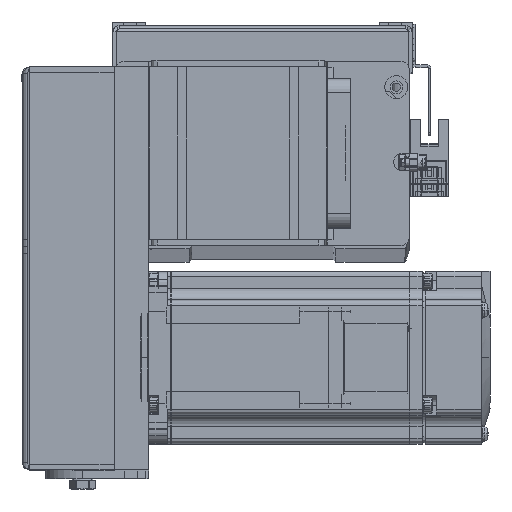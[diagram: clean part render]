
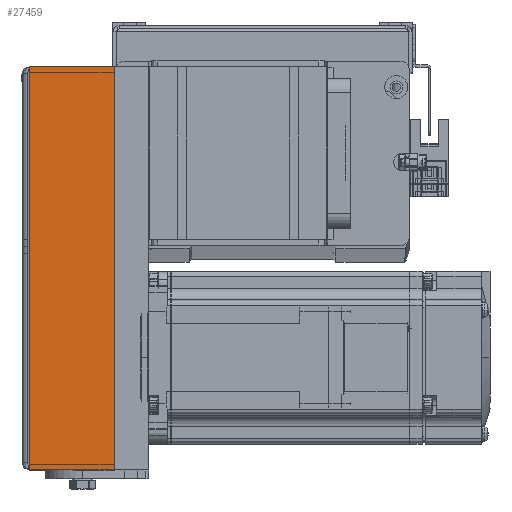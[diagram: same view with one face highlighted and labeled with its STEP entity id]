
A CAD part, top view. The second image highlights one B-rep face of the part: STEP entity #27459.
In plain terms, the highlighted planar face has unit normal (0, 0, 1) as drawn and (0, 0, -1) by its records, which use the part's own axes.
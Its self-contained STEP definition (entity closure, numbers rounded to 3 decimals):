
#3657 = EDGE_CURVE ( 'NONE', #28939, #40712, #26508, .T. ) ;
#4448 = VERTEX_POINT ( 'NONE', #38315 ) ;
#6220 = DIRECTION ( 'NONE',  ( 0., 0., 1. ) ) ;
#7777 = VECTOR ( 'NONE', #45006, 1000. ) ;
#8669 = AXIS2_PLACEMENT_3D ( 'NONE', #18691, #6220, #52227 ) ;
#9411 = ORIENTED_EDGE ( 'NONE', *, *, #3657, .F. ) ;
#11504 = CARTESIAN_POINT ( 'NONE',  ( 70., 0., -31. ) ) ;
#11749 = LINE ( 'NONE', #28498, #7777 ) ;
#13068 = DIRECTION ( 'NONE',  ( 0., 1., 0. ) ) ;
#13646 = ORIENTED_EDGE ( 'NONE', *, *, #20446, .T. ) ;
#15111 = CARTESIAN_POINT ( 'NONE',  ( 70., -29.5, -31. ) ) ;
#15734 = LINE ( 'NONE', #36828, #38042 ) ;
#16682 = LINE ( 'NONE', #45619, #49189 ) ;
#18691 = CARTESIAN_POINT ( 'NONE',  ( 0., -30., -31. ) ) ;
#20446 = EDGE_CURVE ( 'NONE', #4448, #40712, #15734, .T. ) ;
#22723 = EDGE_LOOP ( 'NONE', ( #40340, #46550, #13646, #9411 ) ) ;
#26508 = LINE ( 'NONE', #38708, #33072 ) ;
#26732 = EDGE_CURVE ( 'NONE', #36639, #28939, #11749, .T. ) ;
#27459 = ADVANCED_FACE ( 'NONE', ( #51432 ), #39244, .F. ) ;
#28498 = CARTESIAN_POINT ( 'NONE',  ( 70., -29.5, -31. ) ) ;
#28939 = VERTEX_POINT ( 'NONE', #15111 ) ;
#33072 = VECTOR ( 'NONE', #13068, 1000. ) ;
#33625 = CARTESIAN_POINT ( 'NONE',  ( -70., -29.5, -31. ) ) ;
#36300 = EDGE_CURVE ( 'NONE', #36639, #4448, #16682, .T. ) ;
#36639 = VERTEX_POINT ( 'NONE', #33625 ) ;
#36828 = CARTESIAN_POINT ( 'NONE',  ( 0., 0., -31. ) ) ;
#38042 = VECTOR ( 'NONE', #52784, 1000. ) ;
#38315 = CARTESIAN_POINT ( 'NONE',  ( -70., 0., -31. ) ) ;
#38708 = CARTESIAN_POINT ( 'NONE',  ( 70., -29.5, -31. ) ) ;
#39244 = PLANE ( 'NONE',  #8669 ) ;
#40340 = ORIENTED_EDGE ( 'NONE', *, *, #26732, .F. ) ;
#40712 = VERTEX_POINT ( 'NONE', #11504 ) ;
#41561 = DIRECTION ( 'NONE',  ( 0., 1., 0. ) ) ;
#45006 = DIRECTION ( 'NONE',  ( 1., 0., 0. ) ) ;
#45619 = CARTESIAN_POINT ( 'NONE',  ( -70., -29.5, -31. ) ) ;
#46550 = ORIENTED_EDGE ( 'NONE', *, *, #36300, .T. ) ;
#49189 = VECTOR ( 'NONE', #41561, 1000. ) ;
#51432 = FACE_OUTER_BOUND ( 'NONE', #22723, .T. ) ;
#52227 = DIRECTION ( 'NONE',  ( 0., 1., 0. ) ) ;
#52784 = DIRECTION ( 'NONE',  ( 1., 0., 0. ) ) ;
